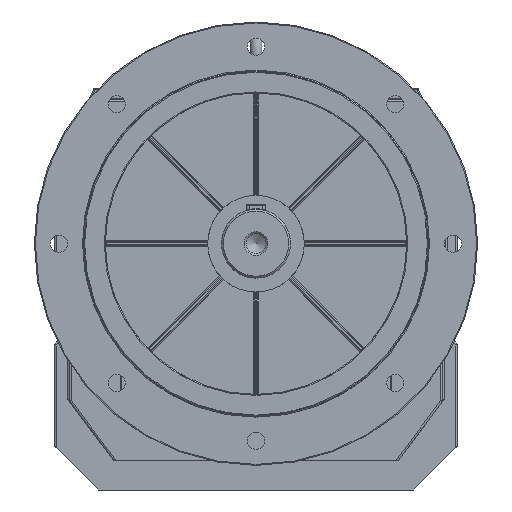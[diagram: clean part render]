
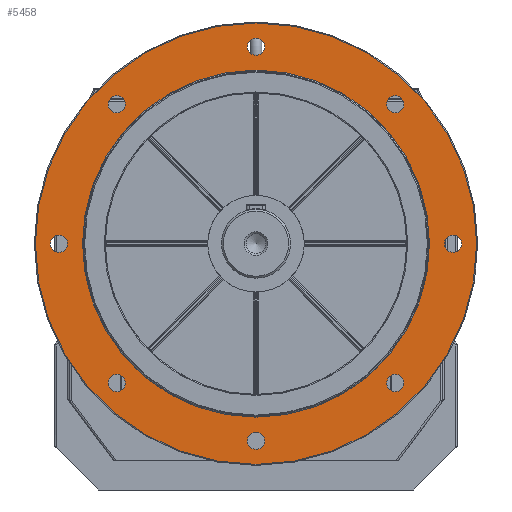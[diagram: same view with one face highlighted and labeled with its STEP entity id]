
A CAD part, front view. The second image highlights one B-rep face of the part: STEP entity #5458.
In plain terms, the highlighted planar face has unit normal (0, -1, 0).
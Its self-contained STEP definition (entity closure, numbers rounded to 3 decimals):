
#5336=CARTESIAN_POINT('',(0.0,-230.,474.0));
#5337=VERTEX_POINT('',#5336);
#5338=CARTESIAN_POINT('',(0.0,-230.,250.0));
#5339=DIRECTION('',(0.0,1.0,0.0));
#5340=DIRECTION('',(0.0,0.0,-1.0));
#5341=AXIS2_PLACEMENT_3D('',#5338,#5339,#5340);
#5342=CIRCLE('',#5341,224.0);
#5343=EDGE_CURVE('',#5337,#5337,#5342,.T.);
#5351=CARTESIAN_POINT('',(0.0,-230.,450.0));
#5352=DIRECTION('',(0.0,-1.0,0.0));
#5353=DIRECTION('',(0.0,0.0,-1.0));
#5354=AXIS2_PLACEMENT_3D('',#5351,#5352,#5353);
#5355=PLANE('',#5354);
#5356=ORIENTED_EDGE('',*,*,#5343,.F.);
#5357=EDGE_LOOP('',(#5356));
#5358=FACE_OUTER_BOUND('',#5357,.T.);
#5359=CARTESIAN_POINT('',(0.,-230.,426.0));
#5360=VERTEX_POINT('',#5359);
#5361=CARTESIAN_POINT('',(0.0,-230.,250.0));
#5362=DIRECTION('',(0.0,-1.0,0.0));
#5363=DIRECTION('',(0.0,0.0,-1.0));
#5364=AXIS2_PLACEMENT_3D('',#5361,#5362,#5363);
#5365=CIRCLE('',#5364,176.0);
#5366=EDGE_CURVE('',#5360,#5360,#5365,.T.);
#5367=ORIENTED_EDGE('',*,*,#5366,.F.);
#5368=EDGE_LOOP('',(#5367));
#5369=FACE_BOUND('',#5368,.T.);
#5370=CARTESIAN_POINT('',(8.75,-230.,50.0));
#5371=VERTEX_POINT('',#5370);
#5372=CARTESIAN_POINT('',(0.0,-230.,50.0));
#5373=DIRECTION('',(0.0,1.0,0.0));
#5374=DIRECTION('',(1.0,0.0,0.0));
#5375=AXIS2_PLACEMENT_3D('',#5372,#5373,#5374);
#5376=CIRCLE('',#5375,8.75);
#5377=EDGE_CURVE('',#5371,#5371,#5376,.T.);
#5378=ORIENTED_EDGE('',*,*,#5377,.T.);
#5379=EDGE_LOOP('',(#5378));
#5380=FACE_BOUND('',#5379,.T.);
#5381=CARTESIAN_POINT('',(208.75,-230.,250.0));
#5382=VERTEX_POINT('',#5381);
#5383=CARTESIAN_POINT('',(200.0,-230.,250.0));
#5384=DIRECTION('',(0.0,1.0,0.0));
#5385=DIRECTION('',(1.0,0.0,0.0));
#5386=AXIS2_PLACEMENT_3D('',#5383,#5384,#5385);
#5387=CIRCLE('',#5386,8.75);
#5388=EDGE_CURVE('',#5382,#5382,#5387,.T.);
#5389=ORIENTED_EDGE('',*,*,#5388,.T.);
#5390=EDGE_LOOP('',(#5389));
#5391=FACE_BOUND('',#5390,.T.);
#5392=CARTESIAN_POINT('',(-191.25,-230.,250.0));
#5393=VERTEX_POINT('',#5392);
#5394=CARTESIAN_POINT('',(-200.0,-230.,250.0));
#5395=DIRECTION('',(0.0,1.0,0.0));
#5396=DIRECTION('',(1.0,0.0,0.0));
#5397=AXIS2_PLACEMENT_3D('',#5394,#5395,#5396);
#5398=CIRCLE('',#5397,8.75);
#5399=EDGE_CURVE('',#5393,#5393,#5398,.T.);
#5400=ORIENTED_EDGE('',*,*,#5399,.T.);
#5401=EDGE_LOOP('',(#5400));
#5402=FACE_BOUND('',#5401,.T.);
#5403=CARTESIAN_POINT('',(8.75,-230.,450.0));
#5404=VERTEX_POINT('',#5403);
#5405=CARTESIAN_POINT('',(0.0,-230.,450.0));
#5406=DIRECTION('',(0.0,1.0,0.0));
#5407=DIRECTION('',(1.0,0.0,0.0));
#5408=AXIS2_PLACEMENT_3D('',#5405,#5406,#5407);
#5409=CIRCLE('',#5408,8.75);
#5410=EDGE_CURVE('',#5404,#5404,#5409,.T.);
#5411=ORIENTED_EDGE('',*,*,#5410,.T.);
#5412=EDGE_LOOP('',(#5411));
#5413=FACE_BOUND('',#5412,.T.);
#5414=CARTESIAN_POINT('',(-132.671,-230.,391.421));
#5415=VERTEX_POINT('',#5414);
#5416=CARTESIAN_POINT('',(-141.421,-230.,391.421));
#5417=DIRECTION('',(0.0,1.0,0.0));
#5418=DIRECTION('',(1.0,0.0,0.0));
#5419=AXIS2_PLACEMENT_3D('',#5416,#5417,#5418);
#5420=CIRCLE('',#5419,8.75);
#5421=EDGE_CURVE('',#5415,#5415,#5420,.T.);
#5422=ORIENTED_EDGE('',*,*,#5421,.T.);
#5423=EDGE_LOOP('',(#5422));
#5424=FACE_BOUND('',#5423,.T.);
#5425=CARTESIAN_POINT('',(150.171,-230.,391.421));
#5426=VERTEX_POINT('',#5425);
#5427=CARTESIAN_POINT('',(141.421,-230.,391.421));
#5428=DIRECTION('',(0.0,1.0,0.0));
#5429=DIRECTION('',(1.0,0.0,0.0));
#5430=AXIS2_PLACEMENT_3D('',#5427,#5428,#5429);
#5431=CIRCLE('',#5430,8.75);
#5432=EDGE_CURVE('',#5426,#5426,#5431,.T.);
#5433=ORIENTED_EDGE('',*,*,#5432,.T.);
#5434=EDGE_LOOP('',(#5433));
#5435=FACE_BOUND('',#5434,.T.);
#5436=CARTESIAN_POINT('',(150.171,-230.,108.579));
#5437=VERTEX_POINT('',#5436);
#5438=CARTESIAN_POINT('',(141.421,-230.,108.579));
#5439=DIRECTION('',(0.0,1.0,0.0));
#5440=DIRECTION('',(1.0,0.0,0.0));
#5441=AXIS2_PLACEMENT_3D('',#5438,#5439,#5440);
#5442=CIRCLE('',#5441,8.75);
#5443=EDGE_CURVE('',#5437,#5437,#5442,.T.);
#5444=ORIENTED_EDGE('',*,*,#5443,.T.);
#5445=EDGE_LOOP('',(#5444));
#5446=FACE_BOUND('',#5445,.T.);
#5447=CARTESIAN_POINT('',(-132.671,-230.,108.579));
#5448=VERTEX_POINT('',#5447);
#5449=CARTESIAN_POINT('',(-141.421,-230.,108.579));
#5450=DIRECTION('',(0.0,1.0,0.0));
#5451=DIRECTION('',(1.0,0.0,0.0));
#5452=AXIS2_PLACEMENT_3D('',#5449,#5450,#5451);
#5453=CIRCLE('',#5452,8.75);
#5454=EDGE_CURVE('',#5448,#5448,#5453,.T.);
#5455=ORIENTED_EDGE('',*,*,#5454,.T.);
#5456=EDGE_LOOP('',(#5455));
#5457=FACE_BOUND('',#5456,.T.);
#5458=ADVANCED_FACE('',(#5358,#5369,#5380,#5391,#5402,#5413,#5424,#5435,#5446,#5457),#5355,.T.);
